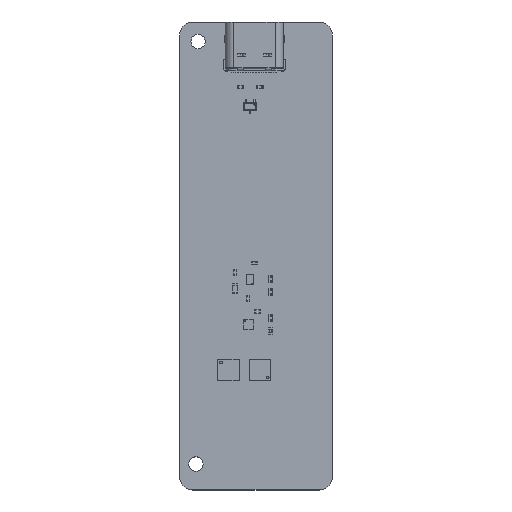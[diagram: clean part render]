
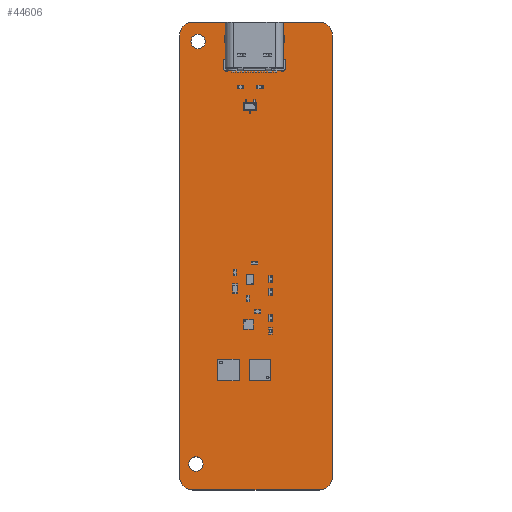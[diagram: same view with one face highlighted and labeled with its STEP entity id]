
A CAD part, top view. The second image highlights one B-rep face of the part: STEP entity #44606.
In plain terms, the highlighted planar face has unit normal (0, 0, 1).
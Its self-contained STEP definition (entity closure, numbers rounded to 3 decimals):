
#44269 = VERTEX_POINT('',#44270);
#44270 = CARTESIAN_POINT('',(100.,-37.4,1.51));
#44276 = EDGE_CURVE('',#44269,#44277,#44279,.T.);
#44277 = VERTEX_POINT('',#44278);
#44278 = CARTESIAN_POINT('',(102.,-39.4,1.51));
#44279 = CIRCLE('',#44280,2.);
#44280 = AXIS2_PLACEMENT_3D('',#44281,#44282,#44283);
#44281 = CARTESIAN_POINT('',(100.,-39.4,1.51));
#44282 = DIRECTION('',(0.,0.,-1.));
#44283 = DIRECTION('',(0.,1.,0.));
#44311 = VERTEX_POINT('',#44312);
#44312 = CARTESIAN_POINT('',(80.5,-37.4,1.51));
#44318 = EDGE_CURVE('',#44311,#44269,#44319,.T.);
#44319 = LINE('',#44320,#44321);
#44320 = CARTESIAN_POINT('',(80.5,-37.4,1.51));
#44321 = VECTOR('',#44322,1.);
#44322 = DIRECTION('',(1.,0.,0.));
#44340 = EDGE_CURVE('',#44277,#44341,#44343,.T.);
#44341 = VERTEX_POINT('',#44342);
#44342 = CARTESIAN_POINT('',(102.,-107.5,1.51));
#44343 = LINE('',#44344,#44345);
#44344 = CARTESIAN_POINT('',(102.,-39.4,1.51));
#44345 = VECTOR('',#44346,1.);
#44346 = DIRECTION('',(0.,-1.,0.));
#44606 = ADVANCED_FACE('',(#44607,#44653,#44664,#44675,#44711,#44722,
    #44758,#44769,#44805),#44841,.T.);
#44607 = FACE_BOUND('',#44608,.T.);
#44608 = EDGE_LOOP('',(#44609,#44610,#44611,#44620,#44628,#44637,#44645,
    #44652));
#44609 = ORIENTED_EDGE('',*,*,#44276,.F.);
#44610 = ORIENTED_EDGE('',*,*,#44318,.F.);
#44611 = ORIENTED_EDGE('',*,*,#44612,.F.);
#44612 = EDGE_CURVE('',#44613,#44311,#44615,.T.);
#44613 = VERTEX_POINT('',#44614);
#44614 = CARTESIAN_POINT('',(78.5,-39.4,1.51));
#44615 = CIRCLE('',#44616,2.);
#44616 = AXIS2_PLACEMENT_3D('',#44617,#44618,#44619);
#44617 = CARTESIAN_POINT('',(80.5,-39.4,1.51));
#44618 = DIRECTION('',(0.,0.,-1.));
#44619 = DIRECTION('',(-1.,0.,-0.));
#44620 = ORIENTED_EDGE('',*,*,#44621,.F.);
#44621 = EDGE_CURVE('',#44622,#44613,#44624,.T.);
#44622 = VERTEX_POINT('',#44623);
#44623 = CARTESIAN_POINT('',(78.5,-107.5,1.51));
#44624 = LINE('',#44625,#44626);
#44625 = CARTESIAN_POINT('',(78.5,-107.5,1.51));
#44626 = VECTOR('',#44627,1.);
#44627 = DIRECTION('',(0.,1.,0.));
#44628 = ORIENTED_EDGE('',*,*,#44629,.F.);
#44629 = EDGE_CURVE('',#44630,#44622,#44632,.T.);
#44630 = VERTEX_POINT('',#44631);
#44631 = CARTESIAN_POINT('',(80.5,-109.5,1.51));
#44632 = CIRCLE('',#44633,2.);
#44633 = AXIS2_PLACEMENT_3D('',#44634,#44635,#44636);
#44634 = CARTESIAN_POINT('',(80.5,-107.5,1.51));
#44635 = DIRECTION('',(0.,0.,-1.));
#44636 = DIRECTION('',(0.,-1.,0.));
#44637 = ORIENTED_EDGE('',*,*,#44638,.F.);
#44638 = EDGE_CURVE('',#44639,#44630,#44641,.T.);
#44639 = VERTEX_POINT('',#44640);
#44640 = CARTESIAN_POINT('',(100.,-109.5,1.51));
#44641 = LINE('',#44642,#44643);
#44642 = CARTESIAN_POINT('',(100.,-109.5,1.51));
#44643 = VECTOR('',#44644,1.);
#44644 = DIRECTION('',(-1.,0.,0.));
#44645 = ORIENTED_EDGE('',*,*,#44646,.F.);
#44646 = EDGE_CURVE('',#44341,#44639,#44647,.T.);
#44647 = CIRCLE('',#44648,2.);
#44648 = AXIS2_PLACEMENT_3D('',#44649,#44650,#44651);
#44649 = CARTESIAN_POINT('',(100.,-107.5,1.51));
#44650 = DIRECTION('',(0.,0.,-1.));
#44651 = DIRECTION('',(1.,0.,0.));
#44652 = ORIENTED_EDGE('',*,*,#44340,.F.);
#44653 = FACE_BOUND('',#44654,.T.);
#44654 = EDGE_LOOP('',(#44655));
#44655 = ORIENTED_EDGE('',*,*,#44656,.T.);
#44656 = EDGE_CURVE('',#44657,#44657,#44659,.T.);
#44657 = VERTEX_POINT('',#44658);
#44658 = CARTESIAN_POINT('',(81.,-106.6,1.51));
#44659 = CIRCLE('',#44660,1.1);
#44660 = AXIS2_PLACEMENT_3D('',#44661,#44662,#44663);
#44661 = CARTESIAN_POINT('',(81.,-105.5,1.51));
#44662 = DIRECTION('',(-0.,0.,-1.));
#44663 = DIRECTION('',(-0.,-1.,0.));
#44664 = FACE_BOUND('',#44665,.T.);
#44665 = EDGE_LOOP('',(#44666));
#44666 = ORIENTED_EDGE('',*,*,#44667,.T.);
#44667 = EDGE_CURVE('',#44668,#44668,#44670,.T.);
#44668 = VERTEX_POINT('',#44669);
#44669 = CARTESIAN_POINT('',(81.323,-41.5,1.51));
#44670 = CIRCLE('',#44671,1.1);
#44671 = AXIS2_PLACEMENT_3D('',#44672,#44673,#44674);
#44672 = CARTESIAN_POINT('',(81.323,-40.4,1.51));
#44673 = DIRECTION('',(-0.,0.,-1.));
#44674 = DIRECTION('',(0.,-1.,-0.));
#44675 = FACE_BOUND('',#44676,.T.);
#44676 = EDGE_LOOP('',(#44677,#44688,#44696,#44705));
#44677 = ORIENTED_EDGE('',*,*,#44678,.T.);
#44678 = EDGE_CURVE('',#44679,#44681,#44683,.T.);
#44679 = VERTEX_POINT('',#44680);
#44680 = CARTESIAN_POINT('',(85.38,-43.63,1.51));
#44681 = VERTEX_POINT('',#44682);
#44682 = CARTESIAN_POINT('',(85.98,-43.63,1.51));
#44683 = CIRCLE('',#44684,0.3);
#44684 = AXIS2_PLACEMENT_3D('',#44685,#44686,#44687);
#44685 = CARTESIAN_POINT('',(85.68,-43.63,1.51));
#44686 = DIRECTION('',(0.,-0.,-1.));
#44687 = DIRECTION('',(1.,0.,-0.));
#44688 = ORIENTED_EDGE('',*,*,#44689,.T.);
#44689 = EDGE_CURVE('',#44681,#44690,#44692,.T.);
#44690 = VERTEX_POINT('',#44691);
#44691 = CARTESIAN_POINT('',(85.98,-44.73,1.51));
#44692 = LINE('',#44693,#44694);
#44693 = CARTESIAN_POINT('',(85.98,-22.365,1.51));
#44694 = VECTOR('',#44695,1.);
#44695 = DIRECTION('',(0.,-1.,0.));
#44696 = ORIENTED_EDGE('',*,*,#44697,.T.);
#44697 = EDGE_CURVE('',#44690,#44698,#44700,.T.);
#44698 = VERTEX_POINT('',#44699);
#44699 = CARTESIAN_POINT('',(85.38,-44.73,1.51));
#44700 = CIRCLE('',#44701,0.3);
#44701 = AXIS2_PLACEMENT_3D('',#44702,#44703,#44704);
#44702 = CARTESIAN_POINT('',(85.68,-44.73,1.51));
#44703 = DIRECTION('',(-0.,0.,-1.));
#44704 = DIRECTION('',(-1.,0.,0.));
#44705 = ORIENTED_EDGE('',*,*,#44706,.T.);
#44706 = EDGE_CURVE('',#44698,#44679,#44707,.T.);
#44707 = LINE('',#44708,#44709);
#44708 = CARTESIAN_POINT('',(85.38,-21.815,1.51));
#44709 = VECTOR('',#44710,1.);
#44710 = DIRECTION('',(-0.,1.,0.));
#44711 = FACE_BOUND('',#44712,.T.);
#44712 = EDGE_LOOP('',(#44713));
#44713 = ORIENTED_EDGE('',*,*,#44714,.T.);
#44714 = EDGE_CURVE('',#44715,#44715,#44717,.T.);
#44715 = VERTEX_POINT('',#44716);
#44716 = CARTESIAN_POINT('',(87.11,-44.005,1.51));
#44717 = CIRCLE('',#44718,0.325);
#44718 = AXIS2_PLACEMENT_3D('',#44719,#44720,#44721);
#44719 = CARTESIAN_POINT('',(87.11,-43.68,1.51));
#44720 = DIRECTION('',(-0.,0.,-1.));
#44721 = DIRECTION('',(-0.,-1.,0.));
#44722 = FACE_BOUND('',#44723,.T.);
#44723 = EDGE_LOOP('',(#44724,#44735,#44743,#44752));
#44724 = ORIENTED_EDGE('',*,*,#44725,.T.);
#44725 = EDGE_CURVE('',#44726,#44728,#44730,.T.);
#44726 = VERTEX_POINT('',#44727);
#44727 = CARTESIAN_POINT('',(85.38,-39.6,1.51));
#44728 = VERTEX_POINT('',#44729);
#44729 = CARTESIAN_POINT('',(85.98,-39.6,1.51));
#44730 = CIRCLE('',#44731,0.3);
#44731 = AXIS2_PLACEMENT_3D('',#44732,#44733,#44734);
#44732 = CARTESIAN_POINT('',(85.68,-39.6,1.51));
#44733 = DIRECTION('',(0.,-0.,-1.));
#44734 = DIRECTION('',(1.,0.,-0.));
#44735 = ORIENTED_EDGE('',*,*,#44736,.T.);
#44736 = EDGE_CURVE('',#44728,#44737,#44739,.T.);
#44737 = VERTEX_POINT('',#44738);
#44738 = CARTESIAN_POINT('',(85.98,-40.4,1.51));
#44739 = LINE('',#44740,#44741);
#44740 = CARTESIAN_POINT('',(85.98,-20.2,1.51));
#44741 = VECTOR('',#44742,1.);
#44742 = DIRECTION('',(0.,-1.,0.));
#44743 = ORIENTED_EDGE('',*,*,#44744,.T.);
#44744 = EDGE_CURVE('',#44737,#44745,#44747,.T.);
#44745 = VERTEX_POINT('',#44746);
#44746 = CARTESIAN_POINT('',(85.38,-40.4,1.51));
#44747 = CIRCLE('',#44748,0.3);
#44748 = AXIS2_PLACEMENT_3D('',#44749,#44750,#44751);
#44749 = CARTESIAN_POINT('',(85.68,-40.4,1.51));
#44750 = DIRECTION('',(-0.,0.,-1.));
#44751 = DIRECTION('',(-1.,0.,0.));
#44752 = ORIENTED_EDGE('',*,*,#44753,.T.);
#44753 = EDGE_CURVE('',#44745,#44726,#44754,.T.);
#44754 = LINE('',#44755,#44756);
#44755 = CARTESIAN_POINT('',(85.38,-19.8,1.51));
#44756 = VECTOR('',#44757,1.);
#44757 = DIRECTION('',(-0.,1.,0.));
#44758 = FACE_BOUND('',#44759,.T.);
#44759 = EDGE_LOOP('',(#44760));
#44760 = ORIENTED_EDGE('',*,*,#44761,.T.);
#44761 = EDGE_CURVE('',#44762,#44762,#44764,.T.);
#44762 = VERTEX_POINT('',#44763);
#44763 = CARTESIAN_POINT('',(92.89,-44.005,1.51));
#44764 = CIRCLE('',#44765,0.325);
#44765 = AXIS2_PLACEMENT_3D('',#44766,#44767,#44768);
#44766 = CARTESIAN_POINT('',(92.89,-43.68,1.51));
#44767 = DIRECTION('',(-0.,0.,-1.));
#44768 = DIRECTION('',(-0.,-1.,0.));
#44769 = FACE_BOUND('',#44770,.T.);
#44770 = EDGE_LOOP('',(#44771,#44782,#44790,#44799));
#44771 = ORIENTED_EDGE('',*,*,#44772,.T.);
#44772 = EDGE_CURVE('',#44773,#44775,#44777,.T.);
#44773 = VERTEX_POINT('',#44774);
#44774 = CARTESIAN_POINT('',(94.02,-43.63,1.51));
#44775 = VERTEX_POINT('',#44776);
#44776 = CARTESIAN_POINT('',(94.62,-43.63,1.51));
#44777 = CIRCLE('',#44778,0.3);
#44778 = AXIS2_PLACEMENT_3D('',#44779,#44780,#44781);
#44779 = CARTESIAN_POINT('',(94.32,-43.63,1.51));
#44780 = DIRECTION('',(0.,-0.,-1.));
#44781 = DIRECTION('',(1.,0.,-0.));
#44782 = ORIENTED_EDGE('',*,*,#44783,.T.);
#44783 = EDGE_CURVE('',#44775,#44784,#44786,.T.);
#44784 = VERTEX_POINT('',#44785);
#44785 = CARTESIAN_POINT('',(94.62,-44.73,1.51));
#44786 = LINE('',#44787,#44788);
#44787 = CARTESIAN_POINT('',(94.62,-22.365,1.51));
#44788 = VECTOR('',#44789,1.);
#44789 = DIRECTION('',(0.,-1.,0.));
#44790 = ORIENTED_EDGE('',*,*,#44791,.T.);
#44791 = EDGE_CURVE('',#44784,#44792,#44794,.T.);
#44792 = VERTEX_POINT('',#44793);
#44793 = CARTESIAN_POINT('',(94.02,-44.73,1.51));
#44794 = CIRCLE('',#44795,0.3);
#44795 = AXIS2_PLACEMENT_3D('',#44796,#44797,#44798);
#44796 = CARTESIAN_POINT('',(94.32,-44.73,1.51));
#44797 = DIRECTION('',(-0.,0.,-1.));
#44798 = DIRECTION('',(-1.,0.,0.));
#44799 = ORIENTED_EDGE('',*,*,#44800,.T.);
#44800 = EDGE_CURVE('',#44792,#44773,#44801,.T.);
#44801 = LINE('',#44802,#44803);
#44802 = CARTESIAN_POINT('',(94.02,-21.815,1.51));
#44803 = VECTOR('',#44804,1.);
#44804 = DIRECTION('',(-0.,1.,0.));
#44805 = FACE_BOUND('',#44806,.T.);
#44806 = EDGE_LOOP('',(#44807,#44818,#44826,#44835));
#44807 = ORIENTED_EDGE('',*,*,#44808,.T.);
#44808 = EDGE_CURVE('',#44809,#44811,#44813,.T.);
#44809 = VERTEX_POINT('',#44810);
#44810 = CARTESIAN_POINT('',(94.02,-39.6,1.51));
#44811 = VERTEX_POINT('',#44812);
#44812 = CARTESIAN_POINT('',(94.62,-39.6,1.51));
#44813 = CIRCLE('',#44814,0.3);
#44814 = AXIS2_PLACEMENT_3D('',#44815,#44816,#44817);
#44815 = CARTESIAN_POINT('',(94.32,-39.6,1.51));
#44816 = DIRECTION('',(0.,-0.,-1.));
#44817 = DIRECTION('',(1.,0.,-0.));
#44818 = ORIENTED_EDGE('',*,*,#44819,.T.);
#44819 = EDGE_CURVE('',#44811,#44820,#44822,.T.);
#44820 = VERTEX_POINT('',#44821);
#44821 = CARTESIAN_POINT('',(94.62,-40.4,1.51));
#44822 = LINE('',#44823,#44824);
#44823 = CARTESIAN_POINT('',(94.62,-20.2,1.51));
#44824 = VECTOR('',#44825,1.);
#44825 = DIRECTION('',(0.,-1.,0.));
#44826 = ORIENTED_EDGE('',*,*,#44827,.T.);
#44827 = EDGE_CURVE('',#44820,#44828,#44830,.T.);
#44828 = VERTEX_POINT('',#44829);
#44829 = CARTESIAN_POINT('',(94.02,-40.4,1.51));
#44830 = CIRCLE('',#44831,0.3);
#44831 = AXIS2_PLACEMENT_3D('',#44832,#44833,#44834);
#44832 = CARTESIAN_POINT('',(94.32,-40.4,1.51));
#44833 = DIRECTION('',(-0.,0.,-1.));
#44834 = DIRECTION('',(-1.,0.,0.));
#44835 = ORIENTED_EDGE('',*,*,#44836,.T.);
#44836 = EDGE_CURVE('',#44828,#44809,#44837,.T.);
#44837 = LINE('',#44838,#44839);
#44838 = CARTESIAN_POINT('',(94.02,-19.8,1.51));
#44839 = VECTOR('',#44840,1.);
#44840 = DIRECTION('',(-0.,1.,0.));
#44841 = PLANE('',#44842);
#44842 = AXIS2_PLACEMENT_3D('',#44843,#44844,#44845);
#44843 = CARTESIAN_POINT('',(0.,0.,1.51));
#44844 = DIRECTION('',(0.,0.,1.));
#44845 = DIRECTION('',(1.,0.,-0.));
